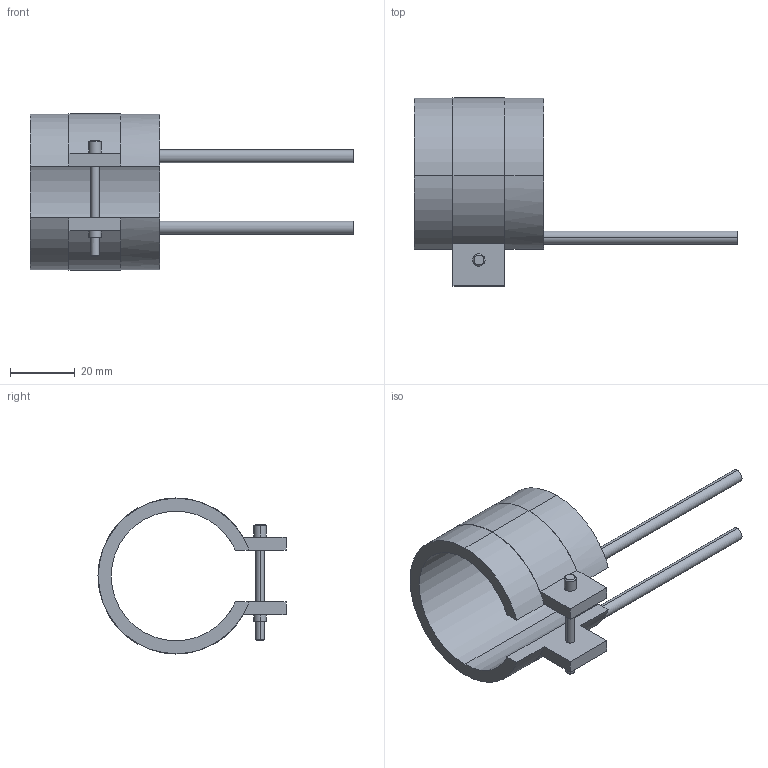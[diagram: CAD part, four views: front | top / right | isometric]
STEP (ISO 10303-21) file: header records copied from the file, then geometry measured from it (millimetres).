
FILE_DESCRIPTION(('CATIA V5 STEP Exchange'),'2;1');
FILE_NAME('C:\Users\Utente\Desktop\IO LAVORO\3D X SITO CF\X SITO\PLASTICA\RF2\14040040.stp','2021-03-31T11:29:06+00:00',('none'),('none'),'CATIA Version 5 Release 20 GA (IN-10)','CATIA V5 STEP AP203','none');
FILE_SCHEMA(('CONFIG_CONTROL_DESIGN'));
Length unit declared in the file: millimetre
Products named in the file (1): 14040040
Bounding box: 100 x 58.1 x 48.2 mm (x, y, z)
Volume: 22959.6 mm3; surface area: 13814.7 mm2
Topology: 1 solids, 1 shells, 45 faces, 116 edges, 76 vertices
Faces by surface type: cylinder 24, plane 17, cone 4
Entity records: 1394 total; most frequent: CARTESIAN_POINT 268, ORIENTED_EDGE 232, DIRECTION 196, EDGE_CURVE 116, AXIS2_PLACEMENT_3D 104, VERTEX_POINT 76, CIRCLE 62, VECTOR 52
